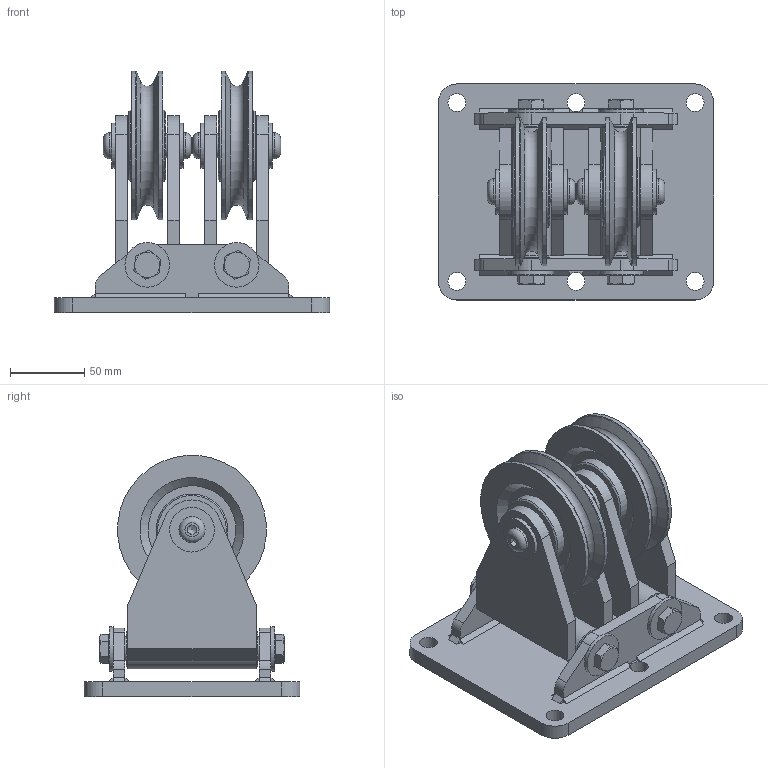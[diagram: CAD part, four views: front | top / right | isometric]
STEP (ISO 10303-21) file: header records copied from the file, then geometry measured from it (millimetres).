
FILE_DESCRIPTION(/* description */ ('Seilrolle ø100 zweifach Schwenkbar SZ 100 G'),/* implementation_level */ '2;1');
FILE_NAME(/* name */ 'Z:\Workspace\03 Seilrollen\1.410 Seilrollen zweifach schwenkbar Gleitlager\1.410.01 Seilrolle ø100 zweifach schwenkbar SZ 100 G\1.410.01 Seilrolle ø100 zweifach Schwenkbar SZ 100 G.stp',/* time_stamp */ '2021-10-18T13:40:43+02:00',/* author */ ('cad-user'),/* organization */ (''),/* preprocessor_version */ 'ST-DEVELOPER v18',/* originating_system */ 'Autodesk Inventor 2020',/* authorisation */ '');
FILE_SCHEMA (('AUTOMOTIVE_DESIGN { 1 0 10303 214 3 1 1 }'));
Length unit declared in the file: millimetre
Products named in the file (18): 1.410.01 Seilrolle ø100 zweifach schwenkbar SZ 100 
G; 1.410.01.01 Konsole Schweißteil; 1.410.01.01 Konsole Schweißteil_1; 1.410.01.02 Platte 1; 1.410.01.03 Platte 2; 1.409.01.06  Schwenkkonsole Schweißteil; 1.409.01.06  Schwenkkonsole Schweißteil_1; 1.409.01.05 Rohr; 1.409.01.04 Platte 3; 1.409.01.07 Achse 1; 1.401.03 Seilrolle ø100 Buchse komplett; 1.401.03 Seilrolle ø100 Buchse ; Lagerbuchse 1625-DU; PCMF 161817 E; 1.409.01.08 Achse 2; DIN 9021 - 10,5; DIN 933 - M10  x 25; ISO 7380 - M10 x 20
Assembly tree (39 placements, depth 3):
  1.410.01 Seilrolle ø100 zweifach schwenkbar SZ 100 
G
    1.410.01.01 Konsole Schweißteil
      1.410.01.01 Konsole Schweißteil_1
      1.410.01.02 Platte 1
      1.410.01.03 Platte 2  x2
    1.409.01.06  Schwenkkonsole Schweißteil  x2
      1.409.01.06  Schwenkkonsole Schweißteil_1
      1.409.01.05 Rohr
      1.409.01.04 Platte 3
    1.409.01.07 Achse 1  x2
    1.401.03 Seilrolle ø100 Buchse komplett  x2
      1.401.03 Seilrolle ø100 Buchse 
      Lagerbuchse 1625-DU
    DIN 9021 - 10,5  x8
    PCMF 161817 E  x4
    1.409.01.08 Achse 2  x2
    DIN 933 - M10  x 25  x4
    ISO 7380 - M10 x 20  x4
Bounding box: 185 x 145 x 161.84 mm (x, y, z)
Volume: 920234 mm3; surface area: 303695.9 mm2
Topology: 51 solids, 51 shells, 482 faces, 1096 edges, 736 vertices
Faces by surface type: plane 268, cylinder 116, cone 76, torus 22
Full cylindrical faces by diameter (mm): 8.376 x6, 9.188 x4, 10 x8, 10.5 x8, 11 x4, 12 x6, 15.4 x4, 16 x8, 17 x2, 17.5 x4, 18 x6, 27 x2, 30 x8, 48 x4, 100 x4
Entity records: 6585 total; most frequent: DIRECTION 1131, CARTESIAN_POINT 1069, ORIENTED_EDGE 908, EDGE_CURVE 454, AXIS2_PLACEMENT_3D 440, VERTEX_POINT 309, LINE 251, VECTOR 251
